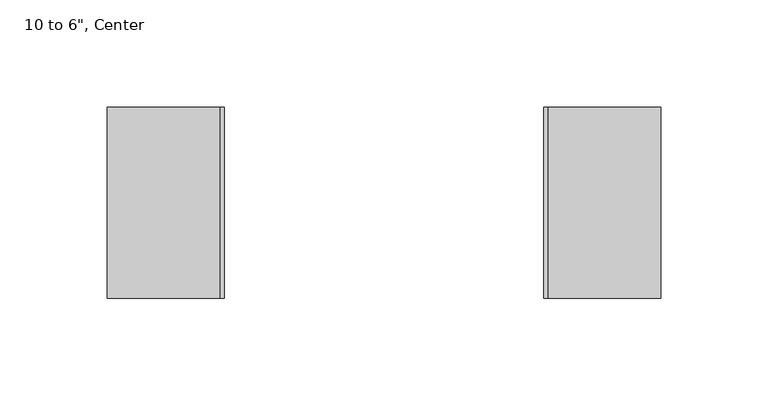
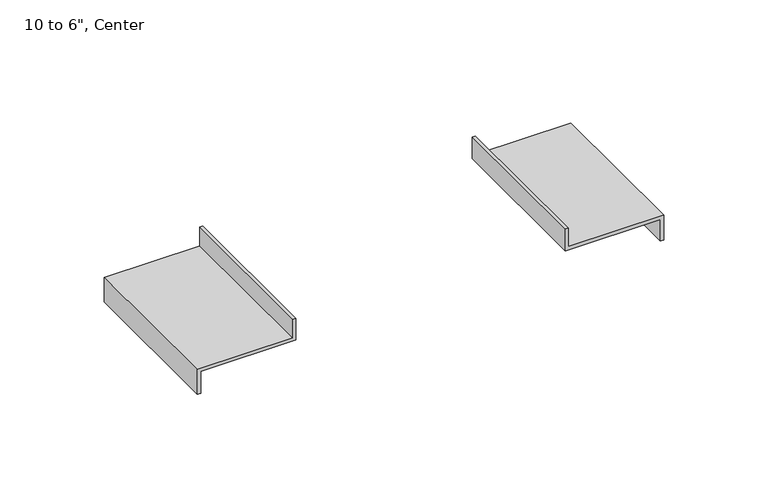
"""IFC4 building model written with IfcOpenShell, lengths in millimetres: proxy geometry."""

from ifc_helpers import new_model, si_unit, frame, origin, place, context, project, spatial, polyline, outline, extrude, source, transform, mapped, element, save


def proxy_1bb0423d(model_context):
    return source(origin(), model_context, "Body", "SweptSolid", [
        extrude(outline(polyline([(0.0, 74.422), (0.0, 127.0), (-12.7, 127.0), (-12.7, 128.778), (1.778, 128.778), (1.778, 76.2), (12.7, 76.2), (12.7, 74.422), (0.0, 74.422)])), frame((0.0, -44.45, 0.0), z_axis=(0.0, 1.0, 0.0), x_axis=(0.0, 0.0, 1.0)), (0.0, 0.0, 1.0), 88.9),
        extrude(outline(polyline([(1.778, -128.778), (-12.7, -128.778), (-12.7, -127.0), (0.0, -127.0), (0.0, -74.422), (12.7, -74.422), (12.7, -76.2), (1.778, -76.2), (1.778, -128.778)])), frame((0.0, -44.45, 0.0), z_axis=(0.0, 1.0, 0.0), x_axis=(0.0, 0.0, 1.0)), (0.0, 0.0, 1.0), 88.9),
    ])


if __name__ == "__main__":
    model = new_model("IFC4")
    model_context = context("Model", 3, world=origin())
    ifc_project = project(units=[si_unit("LENGTHUNIT", "METRE", prefix="MILLI")], contexts=[model_context])
    site = spatial("IfcSite", under=ifc_project)
    building = spatial("IfcBuilding", under=site)
    placement = place(None, origin())
    proxy_shape = proxy_1bb0423d(model_context)
    element("IfcBuildingElementProxy", 1, Name="Reducer-Wallduct-Wiremold : 10 to 6\", Center", ObjectType="Reducer-Wallduct-Wiremold : 10 to 6\", Center", at=placement, inside=building, context=model_context, shape_type="MappedRepresentation", body=[
        mapped(proxy_shape, transform((0.0, 0.0, 0.0), x_axis=(1.0, 0.0, 0.0), y_axis=(0.0, 1.0, 0.0), z_axis=(0.0, 0.0, 1.0))),
    ])
    save(model, "model.ifc")
